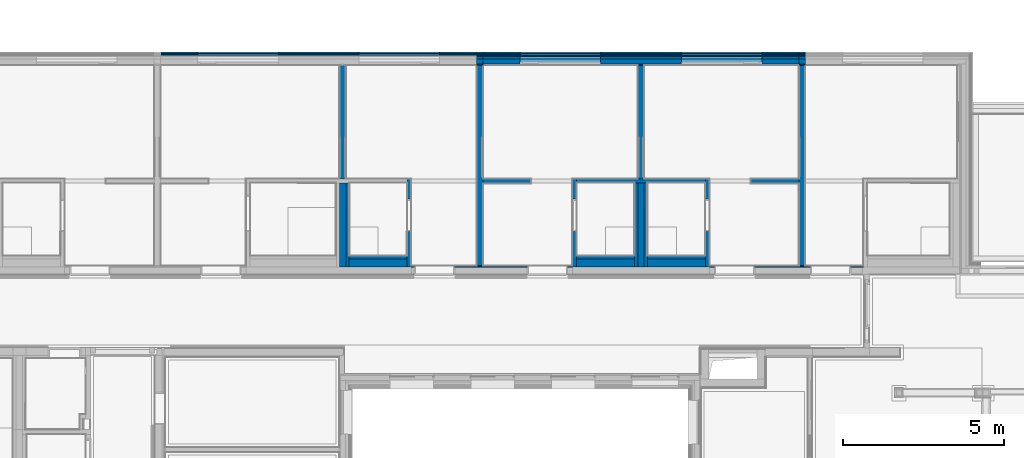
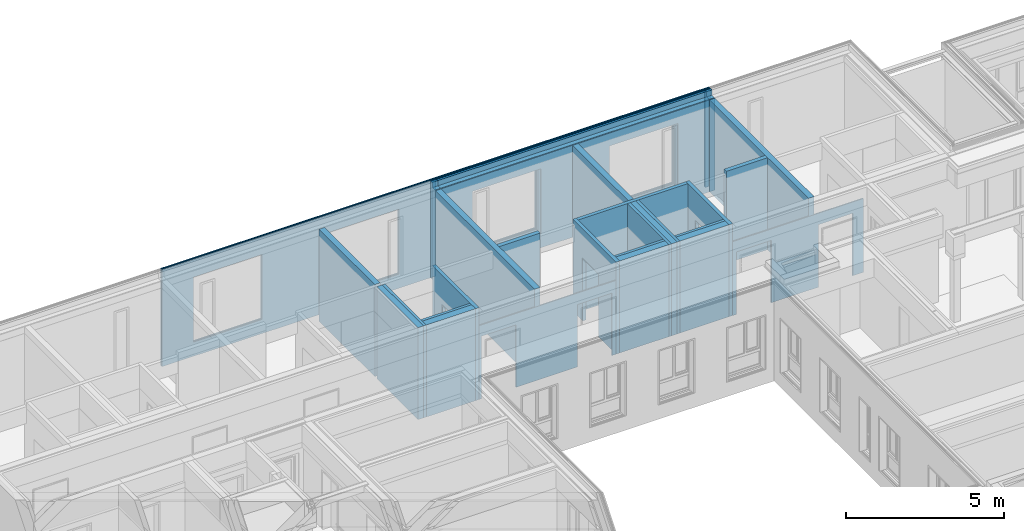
# One storey, part 36 of 222: 47 walls, 27 openings.
"""IFC4 building model written with IfcOpenShell, lengths in metres."""

from ifc_helpers import new_model, entity, si_unit, converted_unit, derived_unit, frame, frame_2d, origin, origin_with_axes, place, context, subcontext, project, spatial, polyline, rectangle, outline, extrude, material, element, save


model = new_model("IFC4")

# Units and contexts
model_context = context("Model", 3, precision=1e-05, world=origin())
body_context = subcontext(model_context, "Body", "Model", "MODEL_VIEW")
ifc_project = project(units=[si_unit("LENGTHUNIT", "METRE"), si_unit("AREAUNIT", "SQUARE_METRE"), si_unit("VOLUMEUNIT", "CUBIC_METRE"), si_unit("MASSUNIT", "GRAM", prefix="KILO"), converted_unit("PLANEANGLEUNIT", "DEGREE", entity("IfcPlaneAngleMeasure", 0.0174532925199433), si_unit("PLANEANGLEUNIT", "RADIAN"), dimensions=[0, 0, 0, 0, 0, 0, 0]), derived_unit("THERMALTRANSMITTANCEUNIT", [(si_unit("POWERUNIT", "WATT"), 1), (si_unit("THERMODYNAMICTEMPERATUREUNIT", "KELVIN"), -1), (si_unit("LENGTHUNIT", "METRE"), -2)]), derived_unit("VOLUMETRICFLOWRATEUNIT", [(si_unit("LENGTHUNIT", "METRE"), 3), (converted_unit("TIMEUNIT", "hour", entity("IfcTimeMeasure", 3600.0), si_unit("TIMEUNIT", "SECOND"), dimensions=[0, 0, 1, 0, 0, 0, 0]), -1), (si_unit("LENGTHUNIT", "METRE"), -1)])], contexts=[model_context])

# Site, building, storey
site_placement = place(None, origin())
site = spatial("IfcSite", under=ifc_project, at=site_placement, Name="Psychiatrie Neubau Wunstorf", CompositionType="ELEMENT")
building_placement = place(site_placement, origin())
building = spatial("IfcBuilding", under=site, at=building_placement, Name="Neubau H2 Stationsgebäude", CompositionType="ELEMENT")
storey_placement = place(building_placement, frame((0.0, 0.0, 3.6)))
storey = spatial("IfcBuildingStorey", under=building, at=storey_placement, Name="H2 Ebene +1", CompositionType="ELEMENT", Elevation=3.6)

# Wall, openings
ifc_material_1 = material(Name="WA-KL")
wall_1_placement = place(storey_placement, frame((10.1, 30.926, 0.0)))
wall_1 = element("IfcWall", 1, at=wall_1_placement, inside=storey, material=ifc_material_1, context=body_context, shape_type="SweptSolid", body=[
    extrude(rectangle(XDim=9.8, YDim=0.024, at=frame_2d((4.9, 0.012), x_axis=(1.0, 0.0))), origin_with_axes(), (0.0, 0.0, 1.0), 3.75),
])
opening_1_placement = place(wall_1_placement, frame((6.15, 0.0, 0.55), z_axis=(0.0, 1.0, 0.0), x_axis=(0.0, 0.0, 1.0)))
element("IfcOpeningElement", 2, at=opening_1_placement, cuts=wall_1, Name="Fensteröffnung", ObjectType="Opening", context=body_context, shape_type="SweptSolid", body=[
    extrude(outline(polyline([(2.5, 2.5), (2.5, 0.0), (0.0, 0.0), (0.0, 2.5), (2.5, 2.5)])), origin_with_axes(), (0.0, 0.0, 1.0), 0.024),
])
opening_2_placement = place(wall_1_placement, frame((1.15, 0.0, 0.55), z_axis=(0.0, 1.0, 0.0), x_axis=(0.0, 0.0, 1.0)))
element("IfcOpeningElement", 3, at=opening_2_placement, cuts=wall_1, Name="Fensteröffnung", ObjectType="Opening", context=body_context, shape_type="SweptSolid", body=[
    extrude(outline(polyline([(2.5, 2.5), (2.5, 0.0), (0.0, 0.0), (0.0, 2.5), (2.5, 2.5)])), origin_with_axes(), (0.0, 0.0, 1.0), 0.024),
])

ifc_material_2 = material(Name="WA-TL")
wall_2_placement = place(storey_placement, frame((10.1, 30.95, 0.0)))
wall_2 = element("IfcWall", 4, at=wall_2_placement, inside=storey, material=ifc_material_2, context=body_context, shape_type="SweptSolid", body=[
    extrude(rectangle(XDim=9.8, YDim=0.024, at=frame_2d((4.9, 0.012), x_axis=(1.0, 0.0))), origin_with_axes(), (0.0, 0.0, 1.0), 3.75),
])
opening_3_placement = place(wall_2_placement, frame((1.15, 0.0, 0.55), z_axis=(0.0, 1.0, 0.0), x_axis=(0.0, 0.0, 1.0)))
element("IfcOpeningElement", 5, at=opening_3_placement, cuts=wall_2, Name="Fensteröffnung", ObjectType="Opening", context=body_context, shape_type="SweptSolid", body=[
    extrude(outline(polyline([(2.5, 2.5), (2.5, 0.0), (0.0, 0.0), (0.0, 2.5), (2.5, 2.5)])), origin_with_axes(), (0.0, 0.0, 1.0), 0.024),
])
opening_4_placement = place(wall_2_placement, frame((6.15, 0.0, 0.55), z_axis=(0.0, 1.0, 0.0), x_axis=(0.0, 0.0, 1.0)))
element("IfcOpeningElement", 6, at=opening_4_placement, cuts=wall_2, Name="Fensteröffnung", ObjectType="Opening", context=body_context, shape_type="SweptSolid", body=[
    extrude(outline(polyline([(2.5, 2.5), (2.5, 0.0), (0.0, 0.0), (0.0, 2.5), (2.5, 2.5)])), origin_with_axes(), (0.0, 0.0, 1.0), 0.024),
])

ifc_material_3 = material(Name="WA-HS")
wall_3_placement = place(storey_placement, frame((10.1, 30.974, 0.0)))
wall_3 = element("IfcWall", 7, at=wall_3_placement, inside=storey, material=ifc_material_3, context=body_context, shape_type="SweptSolid", body=[
    extrude(rectangle(XDim=9.8, YDim=0.042, at=frame_2d((4.9, 0.021), x_axis=(1.0, 0.0))), origin_with_axes(), (0.0, 0.0, 1.0), 3.75),
])
opening_5_placement = place(wall_3_placement, frame((6.15, 0.0, 0.55), z_axis=(0.0, 1.0, 0.0), x_axis=(0.0, 0.0, 1.0)))
element("IfcOpeningElement", 8, at=opening_5_placement, cuts=wall_3, Name="Fensteröffnung", ObjectType="Opening", context=body_context, shape_type="SweptSolid", body=[
    extrude(outline(polyline([(2.5, 2.5), (2.5, 0.0), (0.0, 0.0), (0.0, 2.5), (2.5, 2.5)])), origin_with_axes(), (0.0, 0.0, 1.0), 0.042),
])
opening_6_placement = place(wall_3_placement, frame((1.15, 0.0, 0.55), z_axis=(0.0, 1.0, 0.0), x_axis=(0.0, 0.0, 1.0)))
element("IfcOpeningElement", 9, at=opening_6_placement, cuts=wall_3, Name="Fensteröffnung", ObjectType="Opening", context=body_context, shape_type="SweptSolid", body=[
    extrude(outline(polyline([(2.5, 2.5), (2.5, 0.0), (0.0, 0.0), (0.0, 2.5), (2.5, 2.5)])), origin_with_axes(), (0.0, 0.0, 1.0), 0.042),
])

ifc_material_4 = material(Name="WA-LB")
wall_4_placement = place(storey_placement, frame((20.1, 30.614, 0.0), z_axis=(0.0, 0.0, 1.0), x_axis=(1.0, -7.42444654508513e-16, 0.0)))
wall_4 = element("IfcWall", 10, at=wall_4_placement, inside=storey, material=ifc_material_4, context=body_context, shape_type="SweptSolid", body=[
    extrude(rectangle(XDim=9.8, YDim=0.036, at=frame_2d((4.9, 0.018), x_axis=(1.0, 0.0))), origin_with_axes(), (0.0, 0.0, 1.0), 3.55),
])
opening_7_placement = place(wall_4_placement, frame((1.15, 0.0, 0.55), z_axis=(0.0, 1.0, 0.0), x_axis=(0.0, 0.0, 1.0)))
element("IfcOpeningElement", 11, at=opening_7_placement, cuts=wall_4, Name="Fensteröffnung", ObjectType="Opening", context=body_context, shape_type="SweptSolid", body=[
    extrude(outline(polyline([(2.5, 2.5), (2.5, 0.0), (0.0, 0.0), (0.0, 2.5), (2.5, 2.5)])), origin_with_axes(), (0.0, 0.0, 1.0), 0.036),
])
opening_8_placement = place(wall_4_placement, frame((6.15, 0.0, 0.55), z_axis=(0.0, 1.0, 0.0), x_axis=(0.0, 0.0, 1.0)))
element("IfcOpeningElement", 12, at=opening_8_placement, cuts=wall_4, Name="Fensteröffnung", ObjectType="Opening", context=body_context, shape_type="SweptSolid", body=[
    extrude(outline(polyline([(2.5, 2.5), (2.5, 0.0), (0.0, 0.0), (0.0, 2.5), (2.5, 2.5)])), origin_with_axes(), (0.0, 0.0, 1.0), 0.036),
])

ifc_material_5 = material(Name="WA-HD")
wall_5_placement = place(storey_placement, frame((20.1, 30.65, 0.0), z_axis=(0.0, 0.0, 1.0), x_axis=(1.0, -7.42444654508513e-16, 0.0)))
wall_5 = element("IfcWall", 13, at=wall_5_placement, inside=storey, material=ifc_material_5, context=body_context, shape_type="SweptSolid", body=[
    extrude(rectangle(XDim=9.8, YDim=0.16, at=frame_2d((4.9, 0.08), x_axis=(1.0, 0.0))), origin_with_axes(), (0.0, 0.0, 1.0), 3.55),
])
opening_9_placement = place(wall_5_placement, frame((1.15, 0.0, 0.55), z_axis=(-1.4210854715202e-15, 1.0, 0.0), x_axis=(0.0, 0.0, 1.0)))
element("IfcOpeningElement", 14, at=opening_9_placement, cuts=wall_5, Name="Fensteröffnung", ObjectType="Opening", context=body_context, shape_type="SweptSolid", body=[
    extrude(outline(polyline([(2.5, 2.5), (2.5, 0.0), (0.0, 0.0), (0.0, 2.5), (2.5, 2.5)])), origin_with_axes(), (0.0, 0.0, 1.0), 0.16),
])
opening_10_placement = place(wall_5_placement, frame((6.15, 0.0, 0.55), z_axis=(0.0, 1.0, 0.0), x_axis=(0.0, 0.0, 1.0)))
element("IfcOpeningElement", 15, at=opening_10_placement, cuts=wall_5, Name="Fensteröffnung", ObjectType="Opening", context=body_context, shape_type="SweptSolid", body=[
    extrude(outline(polyline([(2.5, 2.5), (2.5, 0.0), (0.0, 0.0), (0.0, 2.5), (2.5, 2.5)])), origin_with_axes(), (0.0, 0.0, 1.0), 0.16),
])

ifc_material_6 = material(Name="WA-DL")
wall_6_placement = place(storey_placement, frame((20.1, 30.81, 0.0), z_axis=(0.0, 0.0, 1.0), x_axis=(1.0, -7.42444654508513e-16, 0.0)))
wall_6 = element("IfcWall", 16, at=wall_6_placement, inside=storey, material=ifc_material_6, context=body_context, shape_type="SweptSolid", body=[
    extrude(rectangle(XDim=9.8, YDim=0.08, at=frame_2d((4.9, 0.04), x_axis=(1.0, 0.0))), origin_with_axes(), (0.0, 0.0, 1.0), 3.75),
])
opening_11_placement = place(wall_6_placement, frame((6.15, 0.0, 0.55), z_axis=(0.0, 1.0, 0.0), x_axis=(0.0, 0.0, 1.0)))
element("IfcOpeningElement", 17, at=opening_11_placement, cuts=wall_6, Name="Fensteröffnung", ObjectType="Opening", context=body_context, shape_type="SweptSolid", body=[
    extrude(outline(polyline([(2.5, 2.5), (2.5, 0.0), (0.0, 0.0), (0.0, 2.5), (2.5, 2.5)])), origin_with_axes(), (0.0, 0.0, 1.0), 0.08),
])
opening_12_placement = place(wall_6_placement, frame((1.15, 0.0, 0.55), z_axis=(0.0, 1.0, 0.0), x_axis=(0.0, 0.0, 1.0)))
element("IfcOpeningElement", 18, at=opening_12_placement, cuts=wall_6, Name="Fensteröffnung", ObjectType="Opening", context=body_context, shape_type="SweptSolid", body=[
    extrude(outline(polyline([(2.5, 2.5), (2.5, 0.0), (0.0, 0.0), (0.0, 2.5), (2.5, 2.5)])), origin_with_axes(), (0.0, 0.0, 1.0), 0.08),
])

ifc_material_7 = material(Name="WA-LB")
wall_7_placement = place(storey_placement, frame((20.1, 30.89, 0.0), z_axis=(0.0, 0.0, 1.0), x_axis=(1.0, -7.42444654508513e-16, 0.0)))
wall_7 = element("IfcWall", 19, at=wall_7_placement, inside=storey, material=ifc_material_7, context=body_context, shape_type="SweptSolid", body=[
    extrude(rectangle(XDim=9.8, YDim=0.036, at=frame_2d((4.9, 0.018), x_axis=(1.0, 0.0))), origin_with_axes(), (0.0, 0.0, 1.0), 3.75),
])
opening_13_placement = place(wall_7_placement, frame((6.15, 0.0, 0.55), z_axis=(0.0, 1.0, 0.0), x_axis=(0.0, 0.0, 1.0)))
element("IfcOpeningElement", 20, at=opening_13_placement, cuts=wall_7, Name="Fensteröffnung", ObjectType="Opening", context=body_context, shape_type="SweptSolid", body=[
    extrude(outline(polyline([(2.5, 2.5), (2.5, 0.0), (0.0, 0.0), (0.0, 2.5), (2.5, 2.5)])), origin_with_axes(), (0.0, 0.0, 1.0), 0.036),
])
opening_14_placement = place(wall_7_placement, frame((1.15, 0.0, 0.55), z_axis=(0.0, 1.0, 0.0), x_axis=(0.0, 0.0, 1.0)))
element("IfcOpeningElement", 21, at=opening_14_placement, cuts=wall_7, Name="Fensteröffnung", ObjectType="Opening", context=body_context, shape_type="SweptSolid", body=[
    extrude(outline(polyline([(2.5, 2.5), (2.5, 0.0), (0.0, 0.0), (0.0, 2.5), (2.5, 2.5)])), origin_with_axes(), (0.0, 0.0, 1.0), 0.036),
])

ifc_material_8 = material(Name="WA-KL")
wall_8_placement = place(storey_placement, frame((20.1, 30.926, 0.0), z_axis=(0.0, 0.0, 1.0), x_axis=(1.0, -7.42444654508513e-16, 0.0)))
wall_8 = element("IfcWall", 22, at=wall_8_placement, inside=storey, material=ifc_material_8, context=body_context, shape_type="SweptSolid", body=[
    extrude(rectangle(XDim=9.8, YDim=0.024, at=frame_2d((4.9, 0.012), x_axis=(1.0, 0.0))), origin_with_axes(), (0.0, 0.0, 1.0), 3.75),
])
opening_15_placement = place(wall_8_placement, frame((1.15, 0.0, 0.55), z_axis=(0.0, 1.0, 0.0), x_axis=(0.0, 0.0, 1.0)))
element("IfcOpeningElement", 23, at=opening_15_placement, cuts=wall_8, Name="Fensteröffnung", ObjectType="Opening", context=body_context, shape_type="SweptSolid", body=[
    extrude(outline(polyline([(2.5, 2.5), (2.5, 0.0), (0.0, 0.0), (0.0, 2.5), (2.5, 2.5)])), origin_with_axes(), (0.0, 0.0, 1.0), 0.024),
])
opening_16_placement = place(wall_8_placement, frame((6.15, 0.0, 0.55), z_axis=(0.0, 1.0, 0.0), x_axis=(0.0, 0.0, 1.0)))
element("IfcOpeningElement", 24, at=opening_16_placement, cuts=wall_8, Name="Fensteröffnung", ObjectType="Opening", context=body_context, shape_type="SweptSolid", body=[
    extrude(outline(polyline([(2.5, 2.5), (2.5, 0.0), (0.0, 0.0), (0.0, 2.5), (2.5, 2.5)])), origin_with_axes(), (0.0, 0.0, 1.0), 0.024),
])

ifc_material_9 = material(Name="WA-TL")
wall_9_placement = place(storey_placement, frame((20.1, 30.95, 0.0), z_axis=(0.0, 0.0, 1.0), x_axis=(1.0, -7.42444654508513e-16, 0.0)))
wall_9 = element("IfcWall", 25, at=wall_9_placement, inside=storey, material=ifc_material_9, context=body_context, shape_type="SweptSolid", body=[
    extrude(rectangle(XDim=9.8, YDim=0.024, at=frame_2d((4.9, 0.012), x_axis=(1.0, 0.0))), origin_with_axes(), (0.0, 0.0, 1.0), 3.75),
])
opening_17_placement = place(wall_9_placement, frame((6.15, 0.0, 0.55), z_axis=(0.0, 1.0, 0.0), x_axis=(0.0, 0.0, 1.0)))
element("IfcOpeningElement", 26, at=opening_17_placement, cuts=wall_9, Name="Fensteröffnung", ObjectType="Opening", context=body_context, shape_type="SweptSolid", body=[
    extrude(outline(polyline([(2.5, 2.5), (2.5, 0.0), (0.0, 0.0), (0.0, 2.5), (2.5, 2.5)])), origin_with_axes(), (0.0, 0.0, 1.0), 0.024),
])
opening_18_placement = place(wall_9_placement, frame((1.15, 0.0, 0.55), z_axis=(0.0, 1.0, 0.0), x_axis=(0.0, 0.0, 1.0)))
element("IfcOpeningElement", 27, at=opening_18_placement, cuts=wall_9, Name="Fensteröffnung", ObjectType="Opening", context=body_context, shape_type="SweptSolid", body=[
    extrude(outline(polyline([(2.5, 2.5), (2.5, 0.0), (0.0, 0.0), (0.0, 2.5), (2.5, 2.5)])), origin_with_axes(), (0.0, 0.0, 1.0), 0.024),
])

ifc_material_10 = material(Name="WA-HS")
wall_10_placement = place(storey_placement, frame((20.1, 30.974, 0.0), z_axis=(0.0, 0.0, 1.0), x_axis=(1.0, -7.42444654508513e-16, 0.0)))
wall_10 = element("IfcWall", 28, at=wall_10_placement, inside=storey, material=ifc_material_10, context=body_context, shape_type="SweptSolid", body=[
    extrude(rectangle(XDim=9.8, YDim=0.042, at=frame_2d((4.9, 0.021), x_axis=(1.0, 0.0))), origin_with_axes(), (0.0, 0.0, 1.0), 3.75),
])
opening_19_placement = place(wall_10_placement, frame((6.15, 0.0, 0.55), z_axis=(0.0, 1.0, 0.0), x_axis=(0.0, 0.0, 1.0)))
element("IfcOpeningElement", 29, at=opening_19_placement, cuts=wall_10, Name="Fensteröffnung", ObjectType="Opening", context=body_context, shape_type="SweptSolid", body=[
    extrude(outline(polyline([(2.5, 2.5), (2.5, 0.0), (0.0, 0.0), (0.0, 2.5), (2.5, 2.5)])), origin_with_axes(), (0.0, 0.0, 1.0), 0.042),
])
opening_20_placement = place(wall_10_placement, frame((1.15, 0.0, 0.55), z_axis=(0.0, 1.0, 0.0), x_axis=(0.0, 0.0, 1.0)))
element("IfcOpeningElement", 30, at=opening_20_placement, cuts=wall_10, Name="Fensteröffnung", ObjectType="Opening", context=body_context, shape_type="SweptSolid", body=[
    extrude(outline(polyline([(2.5, 2.5), (2.5, 0.0), (0.0, 0.0), (0.0, 2.5), (2.5, 2.5)])), origin_with_axes(), (0.0, 0.0, 1.0), 0.042),
])

# Walls
ifc_material_11 = material(Name="WA-LB")
wall_11_placement = place(storey_placement, frame((19.9, 30.614, 0.0)))
element("IfcWall", 31, at=wall_11_placement, inside=storey, material=ifc_material_11, Name="2x Gipsfaserplatte", context=body_context, shape_type="SweptSolid", body=[
    extrude(rectangle(XDim=0.2, YDim=0.036, at=frame_2d((0.1, 0.018), x_axis=(1.0, 0.0))), origin_with_axes(), (0.0, 0.0, 1.0), 3.55),
])
ifc_material_12 = material(Name="WA-HD")
wall_12_placement = place(storey_placement, frame((19.9, 30.65, 0.0)))
element("IfcWall", 32, at=wall_12_placement, inside=storey, material=ifc_material_12, Name="Holzständer + Zwischendämmung", context=body_context, shape_type="SweptSolid", body=[
    extrude(rectangle(XDim=0.2, YDim=0.16, at=frame_2d((0.1, 0.08), x_axis=(1.0, 0.0))), origin_with_axes(), (0.0, 0.0, 1.0), 3.55),
])
ifc_material_13 = material(Name="WA-DL")
wall_13_placement = place(storey_placement, frame((19.9, 30.81, 0.0)))
element("IfcWall", 33, at=wall_13_placement, inside=storey, material=ifc_material_13, Name="Staffel + Zwischendämmung", context=body_context, shape_type="SweptSolid", body=[
    extrude(rectangle(XDim=0.2, YDim=0.08, at=frame_2d((0.1, 0.04), x_axis=(1.0, 0.0))), origin_with_axes(), (0.0, 0.0, 1.0), 3.75),
])
ifc_material_14 = material(Name="WA-LB")
wall_14_placement = place(storey_placement, frame((19.9, 30.89, 0.0)))
element("IfcWall", 34, at=wall_14_placement, inside=storey, material=ifc_material_14, context=body_context, shape_type="SweptSolid", body=[
    extrude(rectangle(XDim=0.2, YDim=0.036, at=frame_2d((0.1, 0.018), x_axis=(1.0, 0.0))), origin_with_axes(), (0.0, 0.0, 1.0), 3.75),
])
ifc_material_15 = material(Name="WA-KL")
wall_15_placement = place(storey_placement, frame((19.9, 30.926, 0.0)))
element("IfcWall", 35, at=wall_15_placement, inside=storey, material=ifc_material_15, Name="Konterlattung", context=body_context, shape_type="SweptSolid", body=[
    extrude(rectangle(XDim=0.2, YDim=0.024, at=frame_2d((0.1, 0.012), x_axis=(1.0, 0.0))), origin_with_axes(), (0.0, 0.0, 1.0), 3.75),
])
ifc_material_16 = material(Name="WA-TL")
wall_16_placement = place(storey_placement, frame((19.9, 30.95, 0.0)))
element("IfcWall", 36, at=wall_16_placement, inside=storey, material=ifc_material_16, Name="Traglattung", context=body_context, shape_type="SweptSolid", body=[
    extrude(rectangle(XDim=0.2, YDim=0.024, at=frame_2d((0.1, 0.012), x_axis=(1.0, 0.0))), origin_with_axes(), (0.0, 0.0, 1.0), 3.75),
])
ifc_material_17 = material(Name="WA-HS")
wall_17_placement = place(storey_placement, frame((19.9, 30.974, 0.0)))
element("IfcWall", 37, at=wall_17_placement, inside=storey, material=ifc_material_17, Name="Holzschindel", context=body_context, shape_type="SweptSolid", body=[
    extrude(rectangle(XDim=0.2, YDim=0.042, at=frame_2d((0.1, 0.021), x_axis=(1.0, 0.0))), origin_with_axes(), (0.0, 0.0, 1.0), 3.75),
])
ifc_material_18 = material(Name="WA-LB")
wall_18_placement = place(storey_placement, frame((29.9, 30.614, 0.0)))
element("IfcWall", 38, at=wall_18_placement, inside=storey, material=ifc_material_18, Name="2x Gipsfaserplatte", context=body_context, shape_type="SweptSolid", body=[
    extrude(rectangle(XDim=0.2, YDim=0.036, at=frame_2d((0.1, 0.018), x_axis=(1.0, 0.0))), origin_with_axes(), (0.0, 0.0, 1.0), 3.55),
])
ifc_material_19 = material(Name="WA-HD")
wall_19_placement = place(storey_placement, frame((29.9, 30.65, 0.0)))
element("IfcWall", 39, at=wall_19_placement, inside=storey, material=ifc_material_19, Name="Holzständer + Zwischendämmung", context=body_context, shape_type="SweptSolid", body=[
    extrude(rectangle(XDim=0.2, YDim=0.16, at=frame_2d((0.1, 0.08), x_axis=(1.0, 0.0))), origin_with_axes(), (0.0, 0.0, 1.0), 3.55),
])
ifc_material_20 = material(Name="WA-DL")
wall_20_placement = place(storey_placement, frame((29.9, 30.81, 0.0)))
element("IfcWall", 40, at=wall_20_placement, inside=storey, material=ifc_material_20, Name="Staffel + Zwischendämmung", context=body_context, shape_type="SweptSolid", body=[
    extrude(rectangle(XDim=0.2, YDim=0.08, at=frame_2d((0.1, 0.04), x_axis=(1.0, 0.0))), origin_with_axes(), (0.0, 0.0, 1.0), 3.75),
])
ifc_material_21 = material(Name="WA-LB")
wall_21_placement = place(storey_placement, frame((29.9, 30.89, 0.0)))
element("IfcWall", 41, at=wall_21_placement, inside=storey, material=ifc_material_21, context=body_context, shape_type="SweptSolid", body=[
    extrude(rectangle(XDim=0.2, YDim=0.036, at=frame_2d((0.1, 0.018), x_axis=(1.0, 0.0))), origin_with_axes(), (0.0, 0.0, 1.0), 3.75),
])
ifc_material_22 = material(Name="WA-KL")
wall_22_placement = place(storey_placement, frame((29.9, 30.926, 0.0)))
element("IfcWall", 42, at=wall_22_placement, inside=storey, material=ifc_material_22, Name="Konterlattung", context=body_context, shape_type="SweptSolid", body=[
    extrude(rectangle(XDim=0.2, YDim=0.024, at=frame_2d((0.1, 0.012), x_axis=(1.0, 0.0))), origin_with_axes(), (0.0, 0.0, 1.0), 3.75),
])
ifc_material_23 = material(Name="WA-TL")
wall_23_placement = place(storey_placement, frame((29.9, 30.95, 0.0)))
element("IfcWall", 43, at=wall_23_placement, inside=storey, material=ifc_material_23, Name="Traglattung", context=body_context, shape_type="SweptSolid", body=[
    extrude(rectangle(XDim=0.2, YDim=0.024, at=frame_2d((0.1, 0.012), x_axis=(1.0, 0.0))), origin_with_axes(), (0.0, 0.0, 1.0), 3.75),
])
ifc_material_24 = material(Name="WA-HS")
wall_24_placement = place(storey_placement, frame((29.9, 30.974, 0.0)))
element("IfcWall", 44, at=wall_24_placement, inside=storey, material=ifc_material_24, Name="Holzschindel", context=body_context, shape_type="SweptSolid", body=[
    extrude(rectangle(XDim=0.2, YDim=0.042, at=frame_2d((0.1, 0.021), x_axis=(1.0, 0.0))), origin_with_axes(), (0.0, 0.0, 1.0), 3.75),
])

# Wall, opening
ifc_material_25 = material(Name="WI-LB")
wall_25_placement = place(storey_placement, frame((17.875, 24.3495, 0.0), z_axis=(0.0, 0.0, 1.0), x_axis=(0.0, 1.0, 0.0)))
wall_25 = element("IfcWall", 45, at=wall_25_placement, inside=storey, material=ifc_material_25, context=body_context, shape_type="SweptSolid", body=[
    extrude(rectangle(XDim=2.73999999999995, YDim=0.125, at=frame_2d((1.36999999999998, 0.0625), x_axis=(1.0, 0.0))), origin_with_axes(), (0.0, 0.0, 1.0), 3.55),
])
opening_21_placement = place(wall_25_placement, frame((2.11150366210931, 0.125, 0.0), z_axis=(0.0, -1.0, 0.0), x_axis=(0.0, 0.0, 1.0)))
element("IfcOpeningElement", 46, at=opening_21_placement, cuts=wall_25, Name="Türöffnung", ObjectType="Opening", context=body_context, shape_type="SweptSolid", body=[
    extrude(outline(polyline([(2.41, 1.01), (2.41, 0.0), (0.0, 0.0), (0.0, 1.01), (2.41, 1.01)])), origin_with_axes(), (0.0, 0.0, 1.0), 0.125),
])

ifc_material_26 = material(Name="WI-LB")
wall_26_placement = place(storey_placement, frame((22.875, 27.0895, 0.0), z_axis=(0.0, 0.0, 1.0), x_axis=(0.0, -1.0, 0.0)))
wall_26 = element("IfcWall", 47, at=wall_26_placement, inside=storey, material=ifc_material_26, context=body_context, shape_type="SweptSolid", body=[
    extrude(rectangle(XDim=2.73999999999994, YDim=0.125, at=frame_2d((1.36999999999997, 0.0625), x_axis=(1.0, 0.0))), origin_with_axes(), (0.0, 0.0, 1.0), 3.55),
])
opening_22_placement = place(wall_26_placement, frame((1.63849633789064, 0.125, 0.0), z_axis=(0.0, -1.0, 0.0), x_axis=(0.0, 0.0, 1.0)))
element("IfcOpeningElement", 48, at=opening_22_placement, cuts=wall_26, Name="Türöffnung", ObjectType="Opening", context=body_context, shape_type="SweptSolid", body=[
    extrude(outline(polyline([(2.41, 1.01), (2.41, 0.0), (0.0, 0.0), (0.0, 1.01), (2.41, 1.01)])), origin_with_axes(), (0.0, 0.0, 1.0), 0.125),
])

ifc_material_27 = material(Name="WI-LB")
wall_27_placement = place(storey_placement, frame((27.0, 27.0895, 0.0), z_axis=(0.0, 0.0, 1.0), x_axis=(0.0, -1.0, 0.0)))
wall_27 = element("IfcWall", 49, at=wall_27_placement, inside=storey, material=ifc_material_27, context=body_context, shape_type="SweptSolid", body=[
    extrude(rectangle(XDim=2.74, YDim=0.125, at=frame_2d((1.37, 0.0625), x_axis=(1.0, 0.0))), origin_with_axes(), (0.0, 0.0, 1.0), 3.55),
])
opening_23_placement = place(wall_27_placement, frame((0.625000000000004, 0.0, 0.0), z_axis=(0.0, 1.0, 0.0), x_axis=(0.0, 0.0, 1.0)))
element("IfcOpeningElement", 50, at=opening_23_placement, cuts=wall_27, Name="Türöffnung", ObjectType="Opening", context=body_context, shape_type="SweptSolid", body=[
    extrude(outline(polyline([(2.41, 1.01), (2.41, 0.0), (0.0, 0.0), (0.0, 1.01), (2.41, 1.01)])), origin_with_axes(), (0.0, 0.0, 1.0), 0.125),
])

# Walls
ifc_material_28 = material(Name="WI-LB")
wall_28_placement = place(storey_placement, frame((29.9, 30.614, 0.0), z_axis=(0.0, 0.0, 1.0), x_axis=(-5.80729317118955e-16, -1.0, 0.0)))
element("IfcWall", 51, at=wall_28_placement, inside=storey, material=ifc_material_28, context=body_context, shape_type="SweptSolid", body=[
    extrude(rectangle(XDim=6.26450000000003, YDim=0.2, at=frame_2d((3.13225000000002, 0.1), x_axis=(1.0, 0.0))), origin_with_axes(), (0.0, 0.0, 1.0), 3.55),
])
ifc_material_29 = material(Name="WI-LB")
wall_29_placement = place(storey_placement, frame((24.9, 30.614, 0.0), z_axis=(0.0, 0.0, 1.0), x_axis=(-1.03219713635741e-15, -1.0, 0.0)))
element("IfcWall", 52, at=wall_29_placement, inside=storey, material=ifc_material_29, context=body_context, shape_type="SweptSolid", body=[
    extrude(rectangle(XDim=3.52450000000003, YDim=0.2, at=frame_2d((1.76225000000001, 0.1), x_axis=(1.0, 0.0))), origin_with_axes(), (0.0, 0.0, 1.0), 3.55),
])
ifc_material_30 = material(Name="WI-LB")
wall_30_placement = place(storey_placement, frame((19.9, 30.614, 0.0), z_axis=(0.0, 0.0, 1.0), x_axis=(-5.80729317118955e-16, -1.0, 0.0)))
element("IfcWall", 53, at=wall_30_placement, inside=storey, material=ifc_material_30, context=body_context, shape_type="SweptSolid", body=[
    extrude(rectangle(XDim=6.26450000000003, YDim=0.2, at=frame_2d((3.13225000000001, 0.1), x_axis=(1.0, 0.0))), origin_with_axes(), (0.0, 0.0, 1.0), 3.55),
])
ifc_material_31 = material(Name="WI-LB")
wall_31_placement = place(storey_placement, frame((15.65, 30.614, 0.0), z_axis=(0.0, 0.0, 1.0), x_axis=(0.0, -1.0, 0.0)))
element("IfcWall", 54, at=wall_31_placement, inside=storey, material=ifc_material_31, context=body_context, shape_type="SweptSolid", body=[
    extrude(rectangle(XDim=3.52450000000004, YDim=0.2, at=frame_2d((1.76225000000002, 0.1), x_axis=(1.0, 0.0))), origin_with_axes(), (0.0, 0.0, 1.0), 3.55),
])

# Wall, openings
ifc_material_32 = material(Name="WI-LB")
wall_32_placement = place(storey_placement, frame((17.875, 24.3495, 0.0), z_axis=(0.0, 0.0, 1.0), x_axis=(1.0, -7.27595761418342e-16, 0.0)))
wall_32 = element("IfcWall", 55, at=wall_32_placement, inside=storey, material=ifc_material_32, context=body_context, shape_type="SweptSolid", body=[
    extrude(rectangle(XDim=5.0, YDim=0.0399999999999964, at=frame_2d((2.5, 0.0199999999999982), x_axis=(1.0, 0.0))), origin_with_axes(), (0.0, 0.0, 1.0), 2.85),
])
opening_24_placement = place(wall_32_placement, frame((3.58999999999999, 0.0, 0.0), z_axis=(0.0, 1.0, 0.0), x_axis=(0.0, 0.0, 1.0)))
element("IfcOpeningElement", 56, at=opening_24_placement, cuts=wall_32, Name="Türöffnung", ObjectType="Opening", context=body_context, shape_type="SweptSolid", body=[
    extrude(outline(polyline([(2.41, 1.26), (2.41, 0.0), (0.0, 0.0), (0.0, 1.26), (2.41, 1.26)])), origin_with_axes(), (0.0, 0.0, 1.0), 0.0399999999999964),
])
opening_25_placement = place(wall_32_placement, frame((0.0899999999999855, 0.0, 0.0), z_axis=(-7.10542735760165e-16, 1.0, 0.0), x_axis=(0.0, 0.0, 1.0)))
element("IfcOpeningElement", 57, at=opening_25_placement, cuts=wall_32, Name="Türöffnung", ObjectType="Opening", context=body_context, shape_type="SweptSolid", body=[
    extrude(outline(polyline([(2.41, 1.26), (2.41, 0.0), (0.0, 0.0), (0.0, 1.26), (2.41, 1.26)])), origin_with_axes(), (0.0, 0.0, 1.0), 0.0399999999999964),
])

ifc_material_33 = material(Name="WI-LB")
wall_33_placement = place(storey_placement, frame((27.125, 24.3495, 0.0)))
wall_33 = element("IfcWall", 58, at=wall_33_placement, inside=storey, material=ifc_material_33, context=body_context, shape_type="SweptSolid", body=[
    extrude(rectangle(XDim=4.773, YDim=0.0399999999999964, at=frame_2d((2.3865, 0.0199999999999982), x_axis=(1.0, 0.0))), origin_with_axes(), (0.0, 0.0, 1.0), 2.85),
])
opening_26_placement = place(wall_33_placement, frame((0.15, 0.0, 0.0), z_axis=(0.0, 1.0, 0.0), x_axis=(0.0, 0.0, 1.0)))
element("IfcOpeningElement", 59, at=opening_26_placement, cuts=wall_33, Name="Türöffnung", ObjectType="Opening", context=body_context, shape_type="SweptSolid", body=[
    extrude(outline(polyline([(2.41, 1.26), (2.41, 0.0), (0.0, 0.0), (0.0, 1.26), (2.41, 1.26)])), origin_with_axes(), (0.0, 0.0, 1.0), 0.0399999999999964),
])
opening_27_placement = place(wall_33_placement, frame((3.125, 0.0, 0.0), z_axis=(0.0, 1.0, 0.0), x_axis=(0.0, 0.0, 1.0)))
element("IfcOpeningElement", 60, at=opening_27_placement, cuts=wall_33, Name="Türöffnung", ObjectType="Opening", context=body_context, shape_type="SweptSolid", body=[
    extrude(outline(polyline([(2.41, 1.26), (2.41, 0.0), (0.0, 0.0), (0.0, 1.26), (2.41, 1.26)])), origin_with_axes(), (0.0, 0.0, 1.0), 0.0399999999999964),
])

# Walls
ifc_material_34 = material(Name="WI-LB")
wall_34_placement = place(storey_placement, frame((28.4, 26.9395, 0.0), z_axis=(0.0, 0.0, 1.0), x_axis=(1.0, -9.70127681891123e-15, 0.0)))
element("IfcWall", 61, at=wall_34_placement, inside=storey, material=ifc_material_34, context=body_context, shape_type="SweptSolid", body=[
    extrude(rectangle(XDim=1.5, YDim=0.15, at=frame_2d((0.75, 0.075), x_axis=(1.0, 0.0))), origin_with_axes(), (0.0, 0.0, 1.0), 3.55),
])
ifc_material_35 = material(Name="WI-LB")
wall_35_placement = place(storey_placement, frame((23.0, 26.9645, 0.0)))
element("IfcWall", 62, at=wall_35_placement, inside=storey, material=ifc_material_35, context=body_context, shape_type="SweptSolid", body=[
    extrude(rectangle(XDim=4.0, YDim=0.125, at=frame_2d((2.0, 0.0625), x_axis=(1.0, 0.0))), origin_with_axes(), (0.0, 0.0, 1.0), 3.55),
])
ifc_material_36 = material(Name="WI-LB")
wall_36_placement = place(storey_placement, frame((20.1, 26.9395, 0.0)))
element("IfcWall", 63, at=wall_36_placement, inside=storey, material=ifc_material_36, context=body_context, shape_type="SweptSolid", body=[
    extrude(rectangle(XDim=1.5, YDim=0.15, at=frame_2d((0.75, 0.075), x_axis=(1.0, 0.0))), origin_with_axes(), (0.0, 0.0, 1.0), 3.55),
])
ifc_material_37 = material(Name="Installationsraum")
wall_37_placement = place(storey_placement, frame((15.65, 26.9645, 0.0), z_axis=(0.0, 0.0, 1.0), x_axis=(0.0, -1.0, 0.0)))
element("IfcWall", 64, at=wall_37_placement, inside=storey, material=ifc_material_37, context=body_context, shape_type="SweptSolid", body=[
    extrude(rectangle(XDim=2.61499999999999, YDim=0.2, at=frame_2d((1.30749999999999, 0.1), x_axis=(1.0, 0.0))), origin_with_axes(), (0.0, 0.0, 1.0), 3.55),
])
ifc_material_38 = material(Name="WI-IW")
wall_38_placement = place(storey_placement, frame((15.85, 26.9645, 0.0), z_axis=(0.0, 0.0, 1.0), x_axis=(0.0, -1.0, 0.0)))
element("IfcWall", 65, at=wall_38_placement, inside=storey, material=ifc_material_38, context=body_context, shape_type="SweptSolid", body=[
    extrude(rectangle(XDim=2.61499999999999, YDim=0.1, at=frame_2d((1.30749999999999, 0.05), x_axis=(1.0, 0.0))), origin_with_axes(), (0.0, 0.0, 1.0), 3.55),
])
ifc_material_39 = material(Name="WI-IW")
wall_39_placement = place(storey_placement, frame((17.75, 24.6995, 0.0), z_axis=(0.0, 0.0, 1.0), x_axis=(-1.0, 0.0, 0.0)))
element("IfcWall", 66, at=wall_39_placement, inside=storey, material=ifc_material_39, context=body_context, shape_type="SweptSolid", body=[
    extrude(rectangle(XDim=1.8, YDim=0.1, at=frame_2d((0.9, 0.05), x_axis=(1.0, 0.0))), origin_with_axes(), (0.0, 0.0, 1.0), 3.55),
])
ifc_material_40 = material(Name="Installationsraum")
wall_40_placement = place(storey_placement, frame((17.75, 24.5995, 0.0), z_axis=(0.0, 0.0, 1.0), x_axis=(-1.0, 0.0, 0.0)))
element("IfcWall", 67, at=wall_40_placement, inside=storey, material=ifc_material_40, context=body_context, shape_type="SweptSolid", body=[
    extrude(rectangle(XDim=1.8, YDim=0.25, at=frame_2d((0.9, 0.125), x_axis=(1.0, 0.0))), origin_with_axes(), (0.0, 0.0, 1.0), 3.55),
])
ifc_material_41 = material(Name="WI-IW")
wall_41_placement = place(storey_placement, frame((24.8, 24.6995000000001, 0.0), z_axis=(0.0, 0.0, 1.0), x_axis=(-1.0, 0.0, 0.0)))
element("IfcWall", 68, at=wall_41_placement, inside=storey, material=ifc_material_41, context=body_context, shape_type="SweptSolid", body=[
    extrude(rectangle(XDim=1.8, YDim=0.1, at=frame_2d((0.9, 0.05), x_axis=(1.0, 0.0))), origin_with_axes(), (0.0, 0.0, 1.0), 3.55),
])
ifc_material_42 = material(Name="Installationsraum")
wall_42_placement = place(storey_placement, frame((24.8, 24.5995000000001, 0.0), z_axis=(0.0, 0.0, 1.0), x_axis=(-1.0, 0.0, 0.0)))
element("IfcWall", 69, at=wall_42_placement, inside=storey, material=ifc_material_42, context=body_context, shape_type="SweptSolid", body=[
    extrude(rectangle(XDim=1.8, YDim=0.25, at=frame_2d((0.9, 0.125), x_axis=(1.0, 0.0))), origin_with_axes(), (0.0, 0.0, 1.0), 3.55),
])
ifc_material_43 = material(Name="WI-IW")
wall_43_placement = place(storey_placement, frame((24.8, 26.9645, 0.0), z_axis=(0.0, 0.0, 1.0), x_axis=(0.0, -1.0, 0.0)))
element("IfcWall", 70, at=wall_43_placement, inside=storey, material=ifc_material_43, context=body_context, shape_type="SweptSolid", body=[
    extrude(rectangle(XDim=2.61499999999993, YDim=0.1, at=frame_2d((1.30749999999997, 0.05), x_axis=(1.0, 0.0))), origin_with_axes(), (0.0, 0.0, 1.0), 3.55),
])
ifc_material_44 = material(Name="Installationsraum")
wall_44_placement = place(storey_placement, frame((24.9, 26.9645, 0.0), z_axis=(0.0, 0.0, 1.0), x_axis=(0.0, -1.0, 0.0)))
element("IfcWall", 71, at=wall_44_placement, inside=storey, material=ifc_material_44, context=body_context, shape_type="SweptSolid", body=[
    extrude(rectangle(XDim=2.61499999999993, YDim=0.2, at=frame_2d((1.30749999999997, 0.1), x_axis=(1.0, 0.0))), origin_with_axes(), (0.0, 0.0, 1.0), 3.55),
])
ifc_material_45 = material(Name="WI-IW")
wall_45_placement = place(storey_placement, frame((25.1, 26.9645, 0.0), z_axis=(0.0, 0.0, 1.0), x_axis=(0.0, -1.0, 0.0)))
element("IfcWall", 72, at=wall_45_placement, inside=storey, material=ifc_material_45, context=body_context, shape_type="SweptSolid", body=[
    extrude(rectangle(XDim=2.61499999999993, YDim=0.1, at=frame_2d((1.30749999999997, 0.05), x_axis=(1.0, 0.0))), origin_with_axes(), (0.0, 0.0, 1.0), 3.55),
])
ifc_material_46 = material(Name="WI-IW")
wall_46_placement = place(storey_placement, frame((27.0, 24.6995000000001, 0.0), z_axis=(0.0, 0.0, 1.0), x_axis=(-1.0, 0.0, 0.0)))
element("IfcWall", 73, at=wall_46_placement, inside=storey, material=ifc_material_46, context=body_context, shape_type="SweptSolid", body=[
    extrude(rectangle(XDim=1.8, YDim=0.1, at=frame_2d((0.9, 0.05), x_axis=(1.0, 0.0))), origin_with_axes(), (0.0, 0.0, 1.0), 3.55),
])
ifc_material_47 = material(Name="Installationsraum")
wall_47_placement = place(storey_placement, frame((27.0, 24.5995000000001, 0.0), z_axis=(0.0, 0.0, 1.0), x_axis=(-1.0, 0.0, 0.0)))
element("IfcWall", 74, at=wall_47_placement, inside=storey, material=ifc_material_47, context=body_context, shape_type="SweptSolid", body=[
    extrude(rectangle(XDim=1.8, YDim=0.25, at=frame_2d((0.9, 0.125), x_axis=(1.0, 0.0))), origin_with_axes(), (0.0, 0.0, 1.0), 3.55),
])

save(model, "model.ifc")
